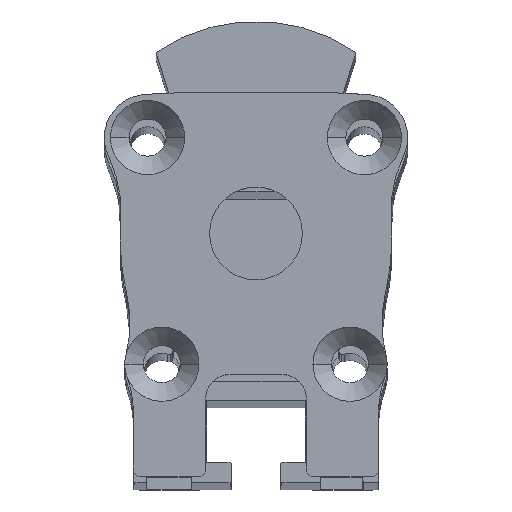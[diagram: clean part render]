
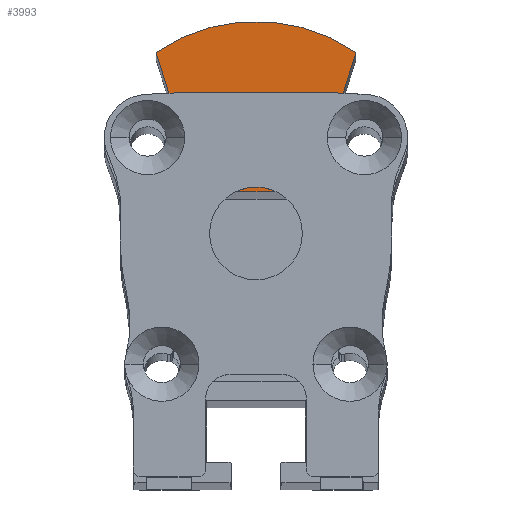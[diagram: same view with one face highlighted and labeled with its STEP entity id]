
A CAD part, top view. The second image highlights one B-rep face of the part: STEP entity #3993.
In plain terms, the highlighted planar face has unit normal (0, 0, 1).
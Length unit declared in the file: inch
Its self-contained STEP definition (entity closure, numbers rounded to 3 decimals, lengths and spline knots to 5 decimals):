
#3993=ADVANCED_FACE('',(#7809),#7810,.T.);
#4001=EDGE_CURVE('',#7813,#7819,#7822,.T.);
#4007=EDGE_CURVE('',#7827,#7819,#7830,.F.);
#4029=EDGE_CURVE('',#7861,#7862,#7863,.F.);
#4035=EDGE_CURVE('',#7869,#7870,#7871,.F.);
#4041=EDGE_CURVE('',#7870,#7861,#7877,.F.);
#4043=EDGE_CURVE('',#7869,#7879,#7880,.F.);
#4047=EDGE_CURVE('',#7813,#7862,#7884,.F.);
#4049=EDGE_CURVE('',#7886,#7887,#7888,.F.);
#4055=EDGE_CURVE('',#7827,#7894,#7895,.F.);
#4059=EDGE_CURVE('',#7894,#7886,#7899,.F.);
#4063=EDGE_CURVE('',#7901,#7887,#7904,.F.);
#4065=EDGE_CURVE('',#7879,#7901,#7906,.F.);
#7809=FACE_OUTER_BOUND('',#18260,.T.);
#7810=PLANE('',#18261);
#7813=VERTEX_POINT('',#18265);
#7819=VERTEX_POINT('',#18275);
#7822=LINE('',#18280,#18281);
#7827=VERTEX_POINT('',#18289);
#7830=LINE('',#18294,#18295);
#7861=VERTEX_POINT('',#18346);
#7862=VERTEX_POINT('',#18347);
#7863=LINE('',#18348,#18349);
#7869=VERTEX_POINT('',#18360);
#7870=VERTEX_POINT('',#18361);
#7871=LINE('',#18362,#18363);
#7877=LINE('',#18374,#18375);
#7879=VERTEX_POINT('',#18378);
#7880=LINE('',#18379,#18380);
#7884=LINE('',#18387,#18388);
#7886=VERTEX_POINT('',#18391);
#7887=VERTEX_POINT('',#18392);
#7888=LINE('',#18393,#18394);
#7894=VERTEX_POINT('',#18405);
#7895=LINE('',#18406,#18407);
#7899=LINE('',#18414,#18415);
#7901=VERTEX_POINT('',#18418);
#7904=LINE('',#18423,#18424);
#7906=CIRCLE('',#18427,0.56299);
#18260=EDGE_LOOP('',(#23969,#23970,#23971,#23972,#23973,#23974,#23975,#23976,#23977,#23978,#23979,#23980));
#18261=AXIS2_PLACEMENT_3D('',#23981,#23982,#23983);
#18265=CARTESIAN_POINT('',(-0.17932,0.15296,1.78391));
#18275=CARTESIAN_POINT('',(0.17932,0.15296,1.78391));
#18280=CARTESIAN_POINT('',(0.,0.15296,1.78391));
#18281=VECTOR('',#23987,1.0);
#18289=CARTESIAN_POINT('',(0.26301,0.4208,1.78391));
#18294=CARTESIAN_POINT('',(0.19145,0.19179,1.78391));
#18295=VECTOR('',#23990,1.0);
#18346=CARTESIAN_POINT('',(-0.21005,0.4208,1.78391));
#18347=CARTESIAN_POINT('',(-0.26301,0.4208,1.78391));
#18348=CARTESIAN_POINT('',(-0.12298,0.4208,1.78391));
#18349=VECTOR('',#24003,1.0);
#18360=CARTESIAN_POINT('',(-0.27532,0.46017,1.78391));
#18361=CARTESIAN_POINT('',(-0.21005,0.46017,1.78391));
#18362=CARTESIAN_POINT('',(-0.12298,0.46017,1.78391));
#18363=VECTOR('',#24006,1.0);
#18374=CARTESIAN_POINT('',(-0.21005,0.35333,1.78391));
#18375=VECTOR('',#24009,1.0);
#18378=CARTESIAN_POINT('',(-0.31832,0.59777,1.78391));
#18379=CARTESIAN_POINT('',(-0.19145,0.19179,1.78391));
#18380=VECTOR('',#24010,1.0);
#18387=CARTESIAN_POINT('',(-0.19145,0.19179,1.78391));
#18388=VECTOR('',#24012,1.0);
#18391=CARTESIAN_POINT('',(0.20856,0.46017,1.78391));
#18392=CARTESIAN_POINT('',(0.27532,0.46017,1.78391));
#18393=CARTESIAN_POINT('',(0.12223,0.46017,1.78391));
#18394=VECTOR('',#24013,1.0);
#18405=CARTESIAN_POINT('',(0.20856,0.4208,1.78391));
#18406=CARTESIAN_POINT('',(0.12223,0.4208,1.78391));
#18407=VECTOR('',#24016,1.0);
#18414=CARTESIAN_POINT('',(0.20856,0.35333,1.78391));
#18415=VECTOR('',#24018,1.0);
#18418=CARTESIAN_POINT('',(0.31832,0.59777,1.78391));
#18423=CARTESIAN_POINT('',(0.19145,0.19179,1.78391));
#18424=VECTOR('',#24020,1.0);
#18427=AXIS2_PLACEMENT_3D('',#24021,#24022,#24023);
#23969=ORIENTED_EDGE('',*,*,#4001,.T.);
#23970=ORIENTED_EDGE('',*,*,#4007,.F.);
#23971=ORIENTED_EDGE('',*,*,#4055,.T.);
#23972=ORIENTED_EDGE('',*,*,#4059,.T.);
#23973=ORIENTED_EDGE('',*,*,#4049,.T.);
#23974=ORIENTED_EDGE('',*,*,#4063,.F.);
#23975=ORIENTED_EDGE('',*,*,#4065,.F.);
#23976=ORIENTED_EDGE('',*,*,#4043,.F.);
#23977=ORIENTED_EDGE('',*,*,#4035,.T.);
#23978=ORIENTED_EDGE('',*,*,#4041,.T.);
#23979=ORIENTED_EDGE('',*,*,#4029,.T.);
#23980=ORIENTED_EDGE('',*,*,#4047,.F.);
#23981=CARTESIAN_POINT('',(0.,0.26619,1.78391));
#23982=DIRECTION('',(0.,0.,1.0));
#23983=DIRECTION('',(1.0,0.0,0.));
#23987=DIRECTION('',(1.0,0.0,0.));
#23990=DIRECTION('',(0.298,0.954,0.));
#24003=DIRECTION('',(1.0,0.0,0.));
#24006=DIRECTION('',(-1.0,0.0,0.));
#24009=DIRECTION('',(-0.0,1.0,0.));
#24010=DIRECTION('',(0.298,-0.954,0.));
#24012=DIRECTION('',(0.298,-0.954,0.));
#24013=DIRECTION('',(-1.0,0.0,0.));
#24016=DIRECTION('',(1.0,0.0,0.));
#24018=DIRECTION('',(-0.0,-1.0,0.));
#24020=DIRECTION('',(0.298,0.954,0.));
#24021=CARTESIAN_POINT('',(0.,0.13341,1.78391));
#24022=DIRECTION('',(0.,0.,1.0));
#24023=DIRECTION('',(1.0,0.,0.));
